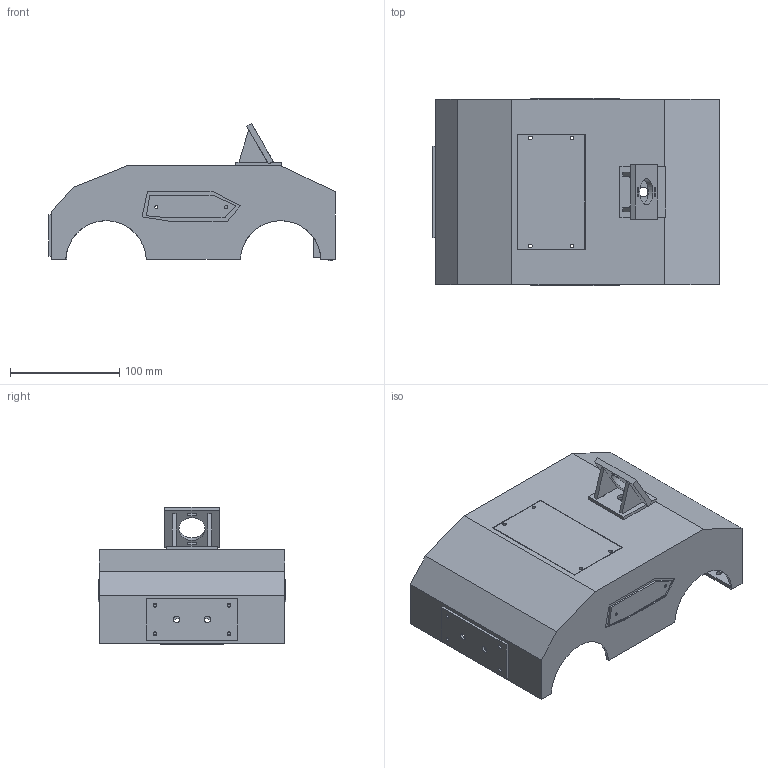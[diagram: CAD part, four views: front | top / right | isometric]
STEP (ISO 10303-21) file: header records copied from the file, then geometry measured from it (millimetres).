
FILE_DESCRIPTION(('Open CASCADE Model'),'2;1');
FILE_NAME('AETHER_Rover_Enclosure_Assembly','2026-10-12T13:16:35',( 'Author'),('Open CASCADE'),'Open CASCADE STEP processor 7.9', 'build123d','Unknown');
FILE_SCHEMA(('AUTOMOTIVE_DESIGN { 1 0 10303 214 1 1 1 1 }'));
Length unit declared in the file: millimetre
Products named in the file (9): AETHER_Rover_Enclosure_Assembly; AETHER_Main_Body_Shell; AETHER_Removable_Top_Cover; AETHER_Front_Camera_Mount; AETHER_Ultrasonic_Sensor_Mount; AETHER_Motion_Detector_Mount; AETHER_Rear_Access_Panel; AETHER_Identity_Panel_Blue; AETHER_Identity_Panel_Red
Assembly tree (8 placements, depth 2):
  AETHER_Rover_Enclosure_Assembly
    AETHER_Main_Body_Shell
    AETHER_Removable_Top_Cover
    AETHER_Front_Camera_Mount
    AETHER_Ultrasonic_Sensor_Mount
    AETHER_Motion_Detector_Mount
    AETHER_Rear_Access_Panel
    AETHER_Identity_Panel_Blue
    AETHER_Identity_Panel_Red
Bounding box: 262.5 x 172 x 125.57 mm (x, y, z)
Volume: 330733.5 mm3; surface area: 239942.5 mm2
Topology: 8 solids, 8 shells, 321 faces, 920 edges, 608 vertices
Faces by surface type: plane 240, cylinder 81
Full cylindrical faces by diameter (mm): 2.5 x11, 2.9 x8, 3.4 x35, 4.5 x4, 6 x2, 8.6 x4, 9 x2, 9.2 x4, 14 x2, 17.4 x4, 24 x1
Entity records: 22771 total; most frequent: CARTESIAN_POINT 4454, DIRECTION 3145, ORIENTED_EDGE 1840, PCURVE 1840, DEFINITIONAL_REPRESENTATION 1840, LINE 1838, VECTOR 1838, EDGE_CURVE 920
